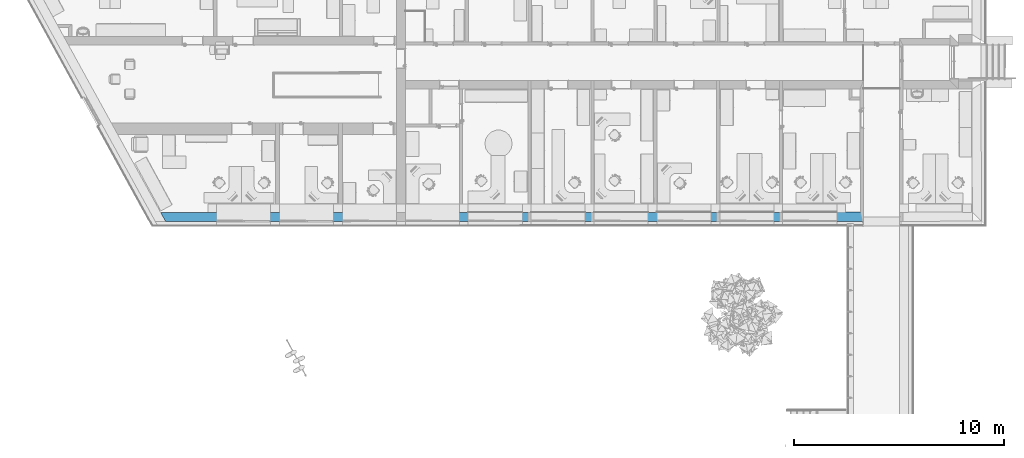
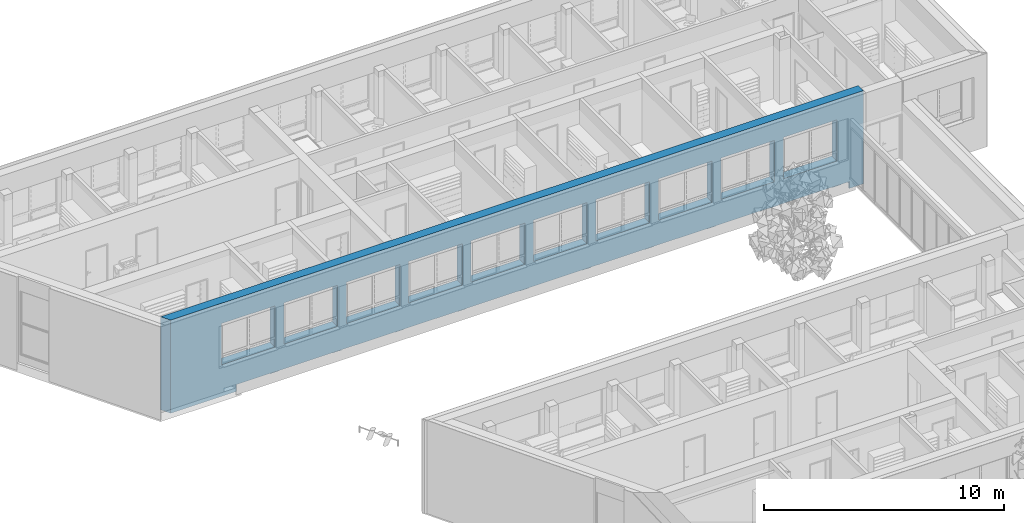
# One storey, part 89 of 194: 1 building element part, 10 openings, 1 element without a shape of its own.
"""IFC2X3 building model written with IfcOpenShell, lengths in millimetres."""

from ifc_helpers import new_model, entity, si_unit, converted_unit, derived_unit, money_unit, direction, frame, origin_with_axes, origin_2d_with_axis, place, context, subcontext, project, spatial, polyline, rectangle, outline, extrude, boolean, faceted_brep, material, type_object, element, aggregate, save


model = new_model("IFC2X3")

# Units and contexts
model_context = context("Model", 3, precision=1e-05, world=origin_with_axes(), true_north=direction((0.0, 1.0)))
body_context = subcontext(model_context, "Body", "Model", "MODEL_VIEW")
ifc_project = project(units=[si_unit("LENGTHUNIT", "METRE", prefix="MILLI"), si_unit("AREAUNIT", "SQUARE_METRE"), si_unit("VOLUMEUNIT", "CUBIC_METRE"), converted_unit("PLANEANGLEUNIT", "DEGREE", entity("IfcPlaneAngleMeasure", 0.0174532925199), si_unit("PLANEANGLEUNIT", "RADIAN"), dimensions=[0, 0, 0, 0, 0, 0, 0]), si_unit("SOLIDANGLEUNIT", "STERADIAN"), money_unit("EUR"), converted_unit("TIMEUNIT", "Year", entity("IfcTimeMeasure", 31556926.0), si_unit("TIMEUNIT", "SECOND"), dimensions=[0, 0, 1, 0, 0, 0, 0]), si_unit("MASSUNIT", "GRAM", prefix="KILO"), si_unit("THERMODYNAMICTEMPERATUREUNIT", "DEGREE_CELSIUS"), si_unit("LUMINOUSINTENSITYUNIT", "LUMEN"), si_unit("ENERGYUNIT", "JOULE", prefix="MEGA"), derived_unit("THERMALCONDUCTANCEUNIT", [(si_unit("POWERUNIT", "WATT"), 1), (si_unit("LENGTHUNIT", "METRE"), -1), (si_unit("THERMODYNAMICTEMPERATUREUNIT", "KELVIN"), -1)]), derived_unit("SPECIFICHEATCAPACITYUNIT", [(si_unit("ENERGYUNIT", "JOULE"), 1), (si_unit("MASSUNIT", "GRAM", prefix="KILO"), -1), (si_unit("THERMODYNAMICTEMPERATUREUNIT", "KELVIN"), -1)]), derived_unit("MASSDENSITYUNIT", [(si_unit("MASSUNIT", "GRAM", prefix="KILO"), 1), (si_unit("VOLUMEUNIT", "CUBIC_METRE"), -1)])], contexts=[model_context])

# Site, building, storey
site_placement = place(None, origin_with_axes())
site = spatial("IfcSite", under=ifc_project, at=site_placement, Name="Site", CompositionType="ELEMENT")
building_placement = place(site_placement, origin_with_axes())
building = spatial("IfcBuilding", under=site, at=building_placement, Name="Building", CompositionType="ELEMENT")
storey_placement = place(building_placement, frame((0.0, 0.0, 3000.0), z_axis=(0.0, 0.0, 1.0), x_axis=(1.0, 0.0, 0.0)))
storey = spatial("IfcBuildingStorey", under=building, at=storey_placement, Name="2 KORRUS", CompositionType="ELEMENT", Elevation=3000.0)

# Wall, openings, building element part
wall_type = type_object("IfcWallType", Name="VS4", PredefinedType="NOTDEFINED")
wall_placement = place(storey_placement, frame((4226.41631601, 58904.2587345, -750.0), z_axis=(0.0, 0.0, 1.0), x_axis=(0.999999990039, 0.000141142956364, 0.0)))
wall = element("IfcWall", 1, at=wall_placement, inside=storey, type_object=wall_type, Name="VS4")
opening_1_placement = place(wall_placement, frame((4217.61051359, 0.0, 1600.0), z_axis=(0.0, 0.0, 1.0), x_axis=(1.0, 0.0, 0.0)))
element("IfcOpeningElement", 2, at=opening_1_placement, cuts=wall, Name="välisaken * Double Window 22", context=body_context, shape_type="SweptSolid", body=[
    extrude(rectangle(XDim=2580.0, YDim=2100.0, at=origin_2d_with_axis()), frame((0.0, -19.9999999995, 1050.0), z_axis=(0.0, -1.0, 0.0), x_axis=(1.0, 0.0, 0.0)), (0.0, 0.0, -1.0), 1100.0),
    extrude(rectangle(XDim=2580.0, YDim=2100.0, at=origin_2d_with_axis()), frame((0.0, -19.9999999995, 1050.0), z_axis=(0.0, 1.0, 0.0), x_axis=(1.0, 0.0, 0.0)), (0.0, 0.0, -1.0), 850.000000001),
])
opening_2_placement = place(wall_placement, frame((7217.610458, 0.0, 1600.0), z_axis=(0.0, 0.0, 1.0), x_axis=(1.0, 0.0, 0.0)))
element("IfcOpeningElement", 3, at=opening_2_placement, cuts=wall, Name="välisaken * Double Window 22", context=body_context, shape_type="SweptSolid", body=[
    extrude(rectangle(XDim=2580.0, YDim=2100.0, at=origin_2d_with_axis()), frame((1.13686837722e-10, -19.9999999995, 1050.0), z_axis=(0.0, -1.0, 0.0), x_axis=(1.0, 0.0, 0.0)), (0.0, 0.0, -1.0), 1100.0),
    extrude(rectangle(XDim=2580.0, YDim=2100.0, at=origin_2d_with_axis()), frame((0.0, -19.9999999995, 1050.0), z_axis=(0.0, 1.0, 0.0), x_axis=(1.0, 0.0, 0.0)), (0.0, 0.0, -1.0), 850.000000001),
])
opening_3_placement = place(wall_placement, frame((10217.9483187, 0.0, 1600.0), z_axis=(0.0, 0.0, 1.0), x_axis=(1.0, 0.0, 0.0)))
element("IfcOpeningElement", 4, at=opening_3_placement, cuts=wall, Name="välisaken * Double Window 22", context=body_context, shape_type="SweptSolid", body=[
    extrude(rectangle(XDim=2580.0, YDim=2100.0, at=origin_2d_with_axis()), frame((2.27373675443e-10, -19.9999999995, 1050.0), z_axis=(0.0, -1.0, 0.0), x_axis=(1.0, 0.0, 0.0)), (0.0, 0.0, -1.0), 1100.0),
    extrude(rectangle(XDim=2580.0, YDim=2100.0, at=origin_2d_with_axis()), frame((1.13686837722e-10, -19.9999999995, 1050.0), z_axis=(0.0, 1.0, 0.0), x_axis=(1.0, 0.0, 0.0)), (0.0, 0.0, -1.0), 850.000000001),
])
opening_4_placement = place(wall_placement, frame((13217.6172268, 0.0, 1600.0), z_axis=(0.0, 0.0, 1.0), x_axis=(1.0, 0.0, 0.0)))
element("IfcOpeningElement", 5, at=opening_4_placement, cuts=wall, Name="välisaken * Double Window 22", context=body_context, shape_type="SweptSolid", body=[
    extrude(rectangle(XDim=2580.0, YDim=2100.0, at=origin_2d_with_axis()), frame((1.13686837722e-10, -19.9999999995, 1050.0), z_axis=(0.0, -1.0, 0.0), x_axis=(1.0, 0.0, 0.0)), (0.0, 0.0, -1.0), 1100.0),
    extrude(rectangle(XDim=2580.0, YDim=2100.0, at=origin_2d_with_axis()), frame((0.0, -19.9999999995, 1050.0), z_axis=(0.0, 1.0, 0.0), x_axis=(1.0, 0.0, 0.0)), (0.0, 0.0, -1.0), 850.000000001),
])
opening_5_placement = place(wall_placement, frame((16217.6100072, 0.0, 1600.0), z_axis=(0.0, 0.0, 1.0), x_axis=(1.0, 0.0, 0.0)))
element("IfcOpeningElement", 6, at=opening_5_placement, cuts=wall, Name="välisaken * Double Window 22", context=body_context, shape_type="SweptSolid", body=[
    extrude(rectangle(XDim=2580.0, YDim=2100.0, at=origin_2d_with_axis()), frame((2.27373675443e-10, -19.9999999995, 1050.0), z_axis=(0.0, -1.0, 0.0), x_axis=(1.0, 0.0, 0.0)), (0.0, 0.0, -1.0), 1100.0),
    extrude(rectangle(XDim=2580.0, YDim=2100.0, at=origin_2d_with_axis()), frame((0.0, -19.9999999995, 1050.0), z_axis=(0.0, 1.0, 0.0), x_axis=(1.0, 0.0, 0.0)), (0.0, 0.0, -1.0), 850.000000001),
])
opening_6_placement = place(wall_placement, frame((19217.6097877, -9.09494701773e-10, 1600.0), z_axis=(0.0, 0.0, 1.0), x_axis=(1.0, 0.0, 0.0)))
element("IfcOpeningElement", 7, at=opening_6_placement, cuts=wall, Name="välisaken * Double Window 22", context=body_context, shape_type="SweptSolid", body=[
    extrude(rectangle(XDim=2580.0, YDim=2100.0, at=origin_2d_with_axis()), frame((1.13686837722e-10, -19.9999999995, 1050.0), z_axis=(0.0, -1.0, 0.0), x_axis=(1.0, 0.0, 0.0)), (0.0, 0.0, -1.0), 1100.0),
    extrude(rectangle(XDim=2580.0, YDim=2100.0, at=origin_2d_with_axis()), frame((0.0, -19.9999999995, 1050.0), z_axis=(0.0, 1.0, 0.0), x_axis=(1.0, 0.0, 0.0)), (0.0, 0.0, -1.0), 850.000000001),
])
opening_7_placement = place(wall_placement, frame((22217.6095682, 0.0, 1600.0), z_axis=(0.0, 0.0, 1.0), x_axis=(1.0, 0.0, 0.0)))
element("IfcOpeningElement", 8, at=opening_7_placement, cuts=wall, Name="välisaken * Double Window 22", context=body_context, shape_type="SweptSolid", body=[
    extrude(rectangle(XDim=2580.0, YDim=2100.0, at=origin_2d_with_axis()), frame((1.13686837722e-10, -19.9999999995, 1050.0), z_axis=(0.0, -1.0, 0.0), x_axis=(1.0, 0.0, 0.0)), (0.0, 0.0, -1.0), 1100.0),
    extrude(rectangle(XDim=2580.0, YDim=2100.0, at=origin_2d_with_axis()), frame((1.13686837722e-10, -19.9999999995, 1050.0), z_axis=(0.0, 1.0, 0.0), x_axis=(1.0, 0.0, 0.0)), (0.0, 0.0, -1.0), 850.000000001),
])
opening_8_placement = place(wall_placement, frame((25219.1631179, 0.0, 1600.0), z_axis=(0.0, 0.0, 1.0), x_axis=(1.0, 0.0, 0.0)))
element("IfcOpeningElement", 9, at=opening_8_placement, cuts=wall, Name="välisaken * Double Window 22", context=body_context, shape_type="SweptSolid", body=[
    extrude(rectangle(XDim=2580.0, YDim=2100.0, at=origin_2d_with_axis()), frame((1.13686837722e-10, -19.9999999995, 1050.0), z_axis=(0.0, -1.0, 0.0), x_axis=(1.0, 0.0, 0.0)), (0.0, 0.0, -1.0), 1100.0),
    extrude(rectangle(XDim=2580.0, YDim=2100.0, at=origin_2d_with_axis()), frame((0.0, -19.9999999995, 1050.0), z_axis=(0.0, 1.0, 0.0), x_axis=(1.0, 0.0, 0.0)), (0.0, 0.0, -1.0), 850.000000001),
])
opening_9_placement = place(wall_placement, frame((28217.9460402, -9.09494701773e-10, 1600.0), z_axis=(0.0, 0.0, 1.0), x_axis=(1.0, 0.0, 0.0)))
element("IfcOpeningElement", 10, at=opening_9_placement, cuts=wall, Name="välisaken * Double Window 22", context=body_context, shape_type="SweptSolid", body=[
    extrude(rectangle(XDim=2580.0, YDim=2100.0, at=origin_2d_with_axis()), frame((2.27373675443e-10, -19.9999999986, 1050.0), z_axis=(0.0, -1.0, 0.0), x_axis=(1.0, 0.0, 0.0)), (0.0, 0.0, -1.0), 1100.0),
    extrude(rectangle(XDim=2580.0, YDim=2100.0, at=origin_2d_with_axis()), frame((1.13686837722e-10, -19.9999999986, 1050.0), z_axis=(0.0, 1.0, 0.0), x_axis=(1.0, 0.0, 0.0)), (0.0, 0.0, -1.0), 850.000000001),
])
opening_10_placement = place(wall_placement, frame((31218.0049304, 0.0, 1600.0), z_axis=(0.0, 0.0, 1.0), x_axis=(1.0, 0.0, 0.0)))
element("IfcOpeningElement", 11, at=opening_10_placement, cuts=wall, Name="välisaken * Double Window 22", context=body_context, shape_type="SweptSolid", body=[
    extrude(rectangle(XDim=2580.0, YDim=2100.0, at=origin_2d_with_axis()), frame((2.27373675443e-10, -19.9999999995, 1050.0), z_axis=(0.0, -1.0, 0.0), x_axis=(1.0, 0.0, 0.0)), (0.0, 0.0, -1.0), 1100.0),
    extrude(rectangle(XDim=2580.0, YDim=2100.0, at=origin_2d_with_axis()), frame((1.13686837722e-10, -19.9999999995, 1050.0), z_axis=(0.0, 1.0, 0.0), x_axis=(1.0, 0.0, 0.0)), (0.0, 0.0, -1.0), 850.000000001),
])
ifc_material = material(Name="Tellis - Konstuktsioon")
building_element_part_placement = place(wall_placement, origin_with_axes())
solid = boolean("DIFFERENCE", boolean("DIFFERENCE", boolean("DIFFERENCE", boolean("DIFFERENCE", boolean("DIFFERENCE", boolean("DIFFERENCE", boolean("DIFFERENCE", boolean("DIFFERENCE", extrude(outline(polyline([(-487.802936, 0.0), (33778.5662491, 0.0), (33778.5662491, 430.0), (-487.802936, 429.999999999), (-487.802936, 0.0)])), origin_with_axes(), (0.0, 0.0, 1.0), 4730.0), faceted_brep([(490.832959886, 0.0, 0.0), (490.832959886, -9.09494701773e-10, 4730.0), (-487.802936, 0.0, 4730.0), (-487.802936, 0.0, 0.0), (254.153863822, 430.00000001, 4730.0), (254.153863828, 429.999999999, 0.0), (-487.802936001, 429.999999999, 4730.0), (-487.802936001, 429.999999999, 0.0)], [[[0, 1, 2, 3]], [[4, 1, 0, 5]], [[1, 4, 6, 2]], [[6, 7, 3, 2]], [[5, 0, 3, 7]], [[4, 5, 7, 6]]])), faceted_brep([(32927.9456551, 429.999999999, 0.0), (32927.9456551, 430.000000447, 350.0), (33259.9762776, 430.000000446, 350.0), (33259.9762776, 429.999999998, 0.0), (32927.94289, 410.409378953, 0.0), (32927.94289, 410.409378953, 350.0), (32507.9428942, 410.468658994, 350.0), (32507.9456509, 430.000000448, 350.0), (29927.9460366, 430.000000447, 350.0), (29927.9432799, 410.468658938, 350.0), (29507.943284, 410.52793898, 350.0), (29507.9460324, 430.000000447, 350.0), (26927.946418, 430.000000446, 350.0), (26927.943653, 410.409379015, 350.0), (26507.9436571, 410.468659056, 350.0), (26507.9464139, 430.000000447, 350.0), (23927.9467995, 430.000000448, 350.0), (23927.9440428, 410.468659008, 350.0), (23507.944047, 410.52793905, 350.0), (23507.9467953, 430.000000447, 350.0), (20927.947181, 430.000000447, 350.0), (20927.9444242, 410.46865898, 350.0), (20507.9444284, 410.527939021, 350.0), (20507.9471768, 430.000000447, 350.0), (17927.9475624, 430.000000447, 350.0), (17927.9449479, 411.476005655, 350.0), (17507.9449521, 411.535285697, 350.0), (17507.9475582, 430.000000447, 350.0), (14927.9479439, 430.000000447, 350.0), (14927.9451674, 410.328432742, 350.0), (14507.9451716, 410.387712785, 350.0), (14507.9479397, 430.000000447, 350.0), (11927.9483253, 430.000000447, 350.0), (11927.9453869, 409.180859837, 350.0), (11507.945391, 409.240139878, 350.0), (11507.9483211, 430.000000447, 350.0), (8928.28635755, 430.000000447, 350.0), (8928.28347883, 409.604240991, 350.0), (8508.28348301, 409.663521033, 350.0), (8508.28635337, 430.000000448, 350.0), (5927.9484371, 430.000000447, 350.0), (5927.94561815, 410.02771755, 350.0), (5507.94562233, 410.086997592, 350.0), (5507.94843291, 430.000000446, 350.0), (3422.17787231, 430.000000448, 350.0), (3630.60652961, 50.9099216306, 350.0), (3658.59746686, 0.0, 350.0), (33099.7594101, 0.0, 350.0), (33099.7846807, 50.1106312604, 350.0), (33259.7846989, 50.1062915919, 350.0), (33259.7846989, 50.1062915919, 0.0), (33099.7846807, 50.1106312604, 0.0), (33099.7594101, 0.0, 0.0), (3658.59746686, 0.0, 0.0), (3630.60652961, 50.9099216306, 0.0), (3422.17787256, 430.0, 0.0), (5507.94843291, 429.999999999, 0.0), (5507.94562233, 410.086997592, 0.0), (5927.94561815, 410.02771755, 0.0), (5927.9484371, 429.999999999, 0.0), (8508.28635337, 430.0, 0.0), (8508.28348301, 409.663521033, 0.0), (8928.28347883, 409.604240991, 0.0), (8928.28635755, 430.0, 0.0), (11507.9483211, 429.999999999, 0.0), (11507.945391, 409.240139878, 0.0), (11927.9453869, 409.180859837, 0.0), (11927.9483253, 429.999999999, 0.0), (14507.9479397, 429.999999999, 0.0), (14507.9451716, 410.387712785, 0.0), (14927.9451674, 410.328432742, 0.0), (14927.9479439, 429.999999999, 0.0), (17507.9475582, 429.999999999, 0.0), (17507.9449521, 411.535285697, 0.0), (17927.9449479, 411.476005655, 0.0), (17927.9475624, 429.999999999, 0.0), (20507.9471768, 429.999999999, 0.0), (20507.9444284, 410.527939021, 0.0), (20927.9444242, 410.46865898, 0.0), (20927.947181, 429.999999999, 0.0), (23507.9467953, 429.999999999, 0.0), (23507.944047, 410.52793905, 0.0), (23927.9440428, 410.468659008, 0.0), (23927.9467995, 430.0, 0.0), (26507.9464139, 429.999999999, 0.0), (26507.9436571, 410.468659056, 0.0), (26927.943653, 410.409379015, 0.0), (26927.946418, 429.999999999, 0.0), (29507.9460324, 429.999999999, 0.0), (29507.943284, 410.52793898, 0.0), (29927.9432799, 410.468658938, 0.0), (29927.9460366, 429.999999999, 0.0), (32507.9456509, 430.0, 0.0), (32507.9428942, 410.468658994, 0.0)], [[[0, 1, 2, 3]], [[1, 0, 4, 5]], [[2, 1, 5, 6, 7, 8, 9, 10, 11, 12, 13, 14, 15, 16, 17, 18, 19, 20, 21, 22, 23, 24, 25, 26, 27, 28, 29, 30, 31, 32, 33, 34, 35, 36, 37, 38, 39, 40, 41, 42, 43, 44, 45, 46, 47, 48, 49]], [[3, 2, 49, 50]], [[4, 0, 3, 50, 51, 52, 53, 54, 55, 56, 57, 58, 59, 60, 61, 62, 63, 64, 65, 66, 67, 68, 69, 70, 71, 72, 73, 74, 75, 76, 77, 78, 79, 80, 81, 82, 83, 84, 85, 86, 87, 88, 89, 90, 91, 92, 93]], [[4, 93, 6, 5]], [[92, 7, 6, 93]], [[7, 92, 91, 8]], [[8, 91, 90, 9]], [[90, 89, 10, 9]], [[88, 11, 10, 89]], [[11, 88, 87, 12]], [[12, 87, 86, 13]], [[86, 85, 14, 13]], [[84, 15, 14, 85]], [[15, 84, 83, 16]], [[16, 83, 82, 17]], [[82, 81, 18, 17]], [[80, 19, 18, 81]], [[19, 80, 79, 20]], [[20, 79, 78, 21]], [[78, 77, 22, 21]], [[76, 23, 22, 77]], [[23, 76, 75, 24]], [[24, 75, 74, 25]], [[74, 73, 26, 25]], [[72, 27, 26, 73]], [[27, 72, 71, 28]], [[28, 71, 70, 29]], [[70, 69, 30, 29]], [[68, 31, 30, 69]], [[31, 68, 67, 32]], [[32, 67, 66, 33]], [[66, 65, 34, 33]], [[64, 35, 34, 65]], [[35, 64, 63, 36]], [[36, 63, 62, 37]], [[62, 61, 38, 37]], [[60, 39, 38, 61]], [[39, 60, 59, 40]], [[40, 59, 58, 41]], [[58, 57, 42, 41]], [[56, 43, 42, 57]], [[43, 56, 55, 44]], [[55, 54, 45, 44]], [[53, 46, 45, 54]], [[46, 53, 52, 47]], [[52, 51, 48, 47]], [[51, 50, 49, 48]]])), faceted_brep([(33778.4621326, 430.000000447, 4730.0), (33778.4621326, 0.0, 4730.0), (33778.5662491, 0.0, 4730.0), (33778.5662491, 430.0, 4730.0), (33778.4621323, 0.0, 4000.0), (33778.4621326, 430.000000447, 4000.0), (33778.4621323, 0.0, 750.0), (33778.4621326, 0.0, 0.0), (33778.5662491, 0.0, 0.0), (33778.5662491, 430.0, 0.0), (33778.4621326, 429.999999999, 0.0), (33778.4621326, 429.999999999, 750.0), (33778.2586322, 429.999999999, 750.0), (33778.2586322, 429.999999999, 4000.0)], [[[0, 1, 2, 3]], [[4, 1, 0, 5]], [[6, 7, 8, 2, 1, 4]], [[2, 8, 9, 3]], [[5, 0, 3, 9, 10, 11, 12, 13]], [[5, 13, 4]], [[7, 6, 11, 10]], [[7, 10, 9, 8]], [[6, 4, 13, 12]], [[12, 11, 6]]])), faceted_brep([(2682.40292194, -200.000000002, 1630.0), (32927.8847586, -200.000000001, 1630.0), (32927.8847586, -200.000000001, 3762.38569103), (2682.40292194, -200.000000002, 3762.38569103), (2682.41561411, -110.075806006, 1630.0), (32927.8968483, -114.344742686, 1630.0), (32927.8968483, -114.344742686, 3762.38569103), (2682.41561411, -110.075806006, 3762.38569103)], [[[0, 1, 2, 3]], [[1, 0, 4, 5]], [[2, 1, 5, 6]], [[3, 2, 6, 7]], [[0, 3, 7, 4]], [[4, 7, 6, 5]]])), faceted_brep([(3658.59746686, 0.0, 367.85512503), (3658.59746686, 0.0, 350.0), (33099.7594101, 0.0, 350.0), (33099.7594101, 0.0, 0.0), (-487.802936, 0.0, 0.0), (-487.802936, 0.0, 4730.0), (-2.27373675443e-10, 0.0, 4730.0), (-2.27373675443e-10, 0.0, 367.85512503), (2816.14557684, 0.0, 367.85512503), (2816.14557684, 0.0, 547.981410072), (3386.81224966, 0.0, 547.981410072), (3386.81224966, 0.0, 367.85512503), (3768.56006886, -200.000000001, 0.0), (3724.07613521, -119.092613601, 0.0), (3724.07613521, -119.092613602, 350.0), (3768.56006886, -200.000000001, 367.85512503), (33089.6989493, -119.889095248, 350.0), (33089.7039923, -109.889095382, 350.0), (33099.7039934, -109.889366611, 350.0), (33099.7039934, -109.889366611, 0.0), (-487.802936, -200.000000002, 0.0), (33089.7039923, -109.889095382, 0.0), (33089.6989493, -119.889095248, 0.0), (-487.802936, -200.000000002, 4730.0), (110.083300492, -200.000000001, 4730.0), (110.083300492, -200.000000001, 367.85512503), (2926.1713567, -200.0, 367.85512503), (2926.1713567, -200.0, 547.981410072), (3496.83802953, -200.000000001, 547.981410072), (3496.83802953, -200.000000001, 367.85512503)], [[[0, 1, 2, 3, 4, 5, 6, 7, 8, 9, 10, 11]], [[12, 13, 14, 1, 0, 15]], [[2, 1, 14, 16, 17, 18]], [[3, 2, 18, 19]], [[13, 12, 20, 4, 3, 19, 21, 22]], [[5, 4, 20, 23]], [[24, 6, 5, 23]], [[6, 24, 25, 7]], [[8, 7, 25, 26]], [[9, 8, 26, 27]], [[10, 9, 27, 28]], [[11, 10, 28, 29]], [[0, 11, 29, 15]], [[13, 22, 16, 14]], [[25, 24, 23, 20, 12, 15, 29, 28, 27, 26]], [[22, 21, 17, 16]], [[21, 19, 18, 17]]])), faceted_brep([(33778.4621326, -200.000000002, 4730.0), (33778.4621326, -200.000000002, 4000.0), (33778.5567835, -200.000004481, 4000.0), (33778.5662491, -200.000000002, 4730.0), (33778.4621326, 0.0, 4730.0), (33778.4621323, 0.0, 4000.0), (33778.5567835, -200.000004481, 750.0), (33778.5662491, -200.000000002, 0.0), (33778.5662491, 0.0, 0.0), (33778.5662491, 0.0, 4730.0), (33259.7594305, 0.0, 0.0), (33259.7594305, 0.0, 750.0), (33778.4621323, 0.0, 750.0), (33259.6585713, -200.000000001, 750.0), (33259.6585713, -200.000000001, 0.0), (33778.4621326, -200.000000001, 750.0)], [[[0, 1, 2, 3]], [[1, 0, 4, 5]], [[2, 1, 5]], [[2, 6, 7, 8, 9, 3]], [[4, 0, 3, 9]], [[5, 4, 9, 8, 10, 11, 12]], [[6, 2, 5, 12]], [[13, 14, 7, 6, 15]], [[14, 10, 8, 7]], [[11, 10, 14, 13]], [[12, 11, 13, 15]], [[15, 6, 12]]])), faceted_brep([(-487.802936, -220.000000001, 0.0), (-107.202769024, -220.008866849, 0.0), (98.0806644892, -220.000000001, 0.0), (98.0806644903, -220.000000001, 367.85512503), (-107.202769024, -220.008866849, 367.85512503), (-107.202769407, -220.0, 4730.0), (-487.802936, -220.000000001, 4730.0), (-487.802936, -200.000000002, 0.0), (3768.56006886, -200.000000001, 0.0), (3779.46890279, -219.840989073, 0.0), (3507.75958732, -219.852725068, 0.0), (3507.84060752, -219.999999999, 0.0), (2937.17393469, -220.0, 0.0), (2937.10647425, -219.877373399, 0.0), (2937.10647425, -219.877373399, 367.85512503), (2926.1713567, -200.0, 367.85512503), (110.083300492, -200.000000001, 367.85512503), (-118.211099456, -200.0, 367.85512503), (-118.211099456, -200.0, 4730.0), (-487.802936, -200.000000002, 4730.0), (2926.1713567, -200.0, 547.981410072), (3496.83802953, -200.000000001, 547.981410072), (3496.83802953, -200.000000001, 367.85512503), (3768.56006886, -200.000000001, 367.85512503), (3779.46890279, -219.840989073, 367.85512503), (3507.75958732, -219.852725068, 367.85512503), (3507.84060752, -219.999999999, 547.981410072), (2937.17393469, -219.999999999, 547.981410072)], [[[0, 1, 2, 3, 4, 5, 6]], [[1, 0, 7, 8, 9, 10, 11, 12, 13, 2]], [[3, 2, 13, 14]], [[4, 3, 14, 15, 16, 17]], [[5, 4, 17, 18]], [[6, 5, 18, 19]], [[0, 6, 19, 7]], [[7, 19, 18, 17, 16, 15, 20, 21, 22, 23, 8]], [[9, 8, 23, 24]], [[10, 9, 24, 25]], [[11, 10, 25, 22, 21, 26]], [[27, 12, 11, 26]], [[13, 12, 27, 20, 15, 14]], [[27, 26, 21, 20]], [[22, 25, 24, 23]]])), faceted_brep([(2682.40009908, -220.000000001, 1630.0), (2682.40009908, -220.000000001, 3762.38569103), (2682.40292194, -200.000000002, 3762.38569103), (2682.40292194, -200.000000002, 1630.0), (32927.8819358, -219.999999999, 1630.0), (32927.8819358, -219.999999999, 3762.38569103), (32927.8847586, -200.000000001, 3762.38569103), (32927.8847586, -200.000000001, 1630.0)], [[[0, 1, 2, 3]], [[1, 0, 4, 5]], [[1, 5, 6, 2]], [[3, 2, 6, 7]], [[4, 0, 3, 7]], [[5, 4, 7, 6]]]))
building_element_part = element("IfcBuildingElementPart", 12, at=building_element_part_placement, material=ifc_material, Name="Tellis - Konstuktsioon", context=body_context, shape_type="CSG", body=[
    boolean("DIFFERENCE", boolean("DIFFERENCE", solid, faceted_brep([(33259.6484854, -220.0, 750.0), (33259.6484854, -220.0, 0.0), (33778.5662491, -220.000000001, 0.0), (33778.5662487, -220.0, 750.0), (33778.4621326, -220.0, 750.0), (33259.6585713, -200.000000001, 750.0), (33259.6585713, -200.000000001, 0.0), (33778.5662491, -200.000000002, 0.0), (33778.5567835, -200.000000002, 750.0), (33778.4621326, -200.000000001, 750.0)], [[[0, 1, 2, 3, 4]], [[1, 0, 5, 6]], [[1, 6, 7, 2]], [[2, 7, 8, 3]], [[4, 3, 8, 9]], [[5, 0, 4, 9]], [[6, 5, 9, 8, 7]]])), faceted_brep([(33778.5567835, -200.000000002, 4000.0), (33778.4621325, -200.000000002, 4000.0), (33778.4621326, -200.000000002, 4730.0), (33778.5662491, -200.000000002, 4730.0), (33778.5662487, -220.000000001, 4000.0), (33778.4621326, -220.0, 4000.0), (33778.4621326, -220.0, 4730.0), (33778.5662491, -220.000000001, 4730.0)], [[[0, 1, 2, 3]], [[4, 5, 1, 0]], [[5, 6, 2, 1]], [[6, 7, 3, 2]], [[3, 7, 4, 0]], [[5, 4, 7, 6]]])),
])
aggregate(wall, [building_element_part])

save(model, "model.ifc")
